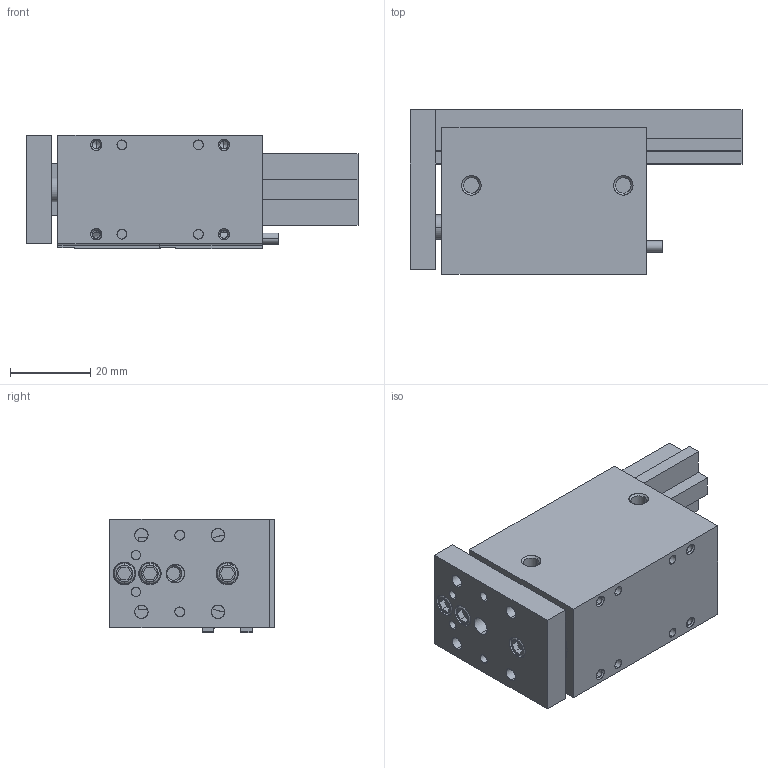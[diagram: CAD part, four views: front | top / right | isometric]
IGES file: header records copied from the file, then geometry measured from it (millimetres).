
Start section: SolidWorks IGES file using analytic representation for surfaces
Global section: file name: C:\Users\jmkuhnes\Pictures\My Transfers\AGMS\AGMS-2-2\AGMS-2-2 RETRACTED in IN.IGS; native system: SolidWorks 2013; preprocessor: SolidWorks 2013; author: jmkuhnes; date: 141106.094609; units: inch
Bounding box: 82.55 x 40.84 x 28.2 mm (x, y, z)
Surface area: 24210.5 mm2 (no closed solid volume)
Topology: 0 solids, 0 shells, 315 faces, 4750 edges, 4738 vertices
Faces by surface type: revolution 172, bspline 143
